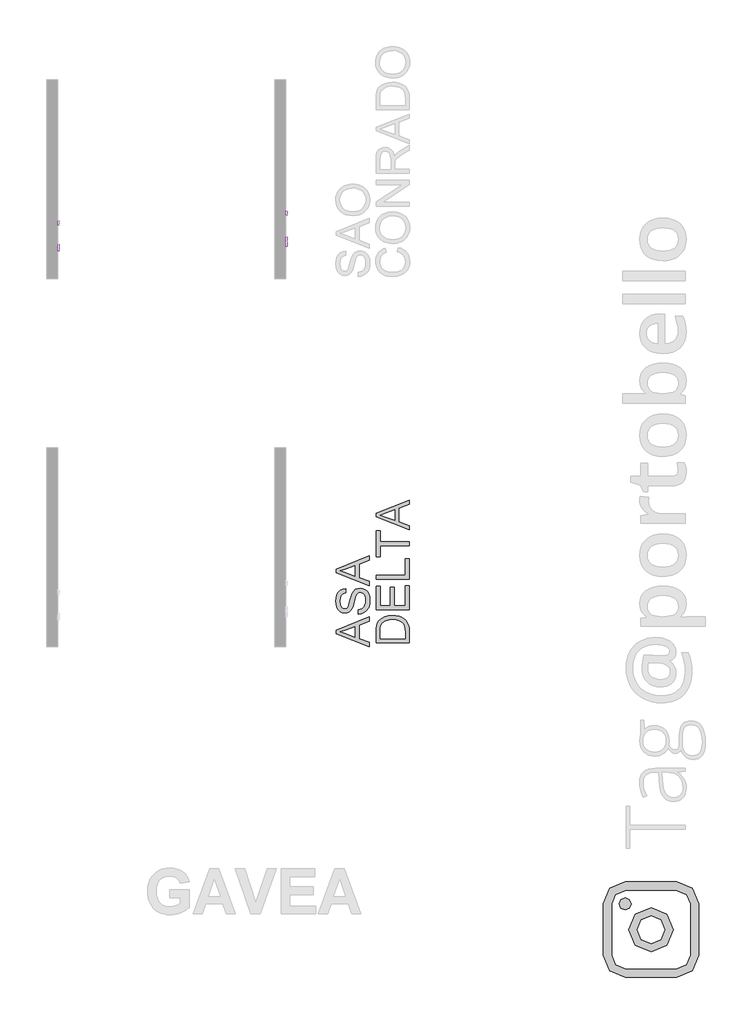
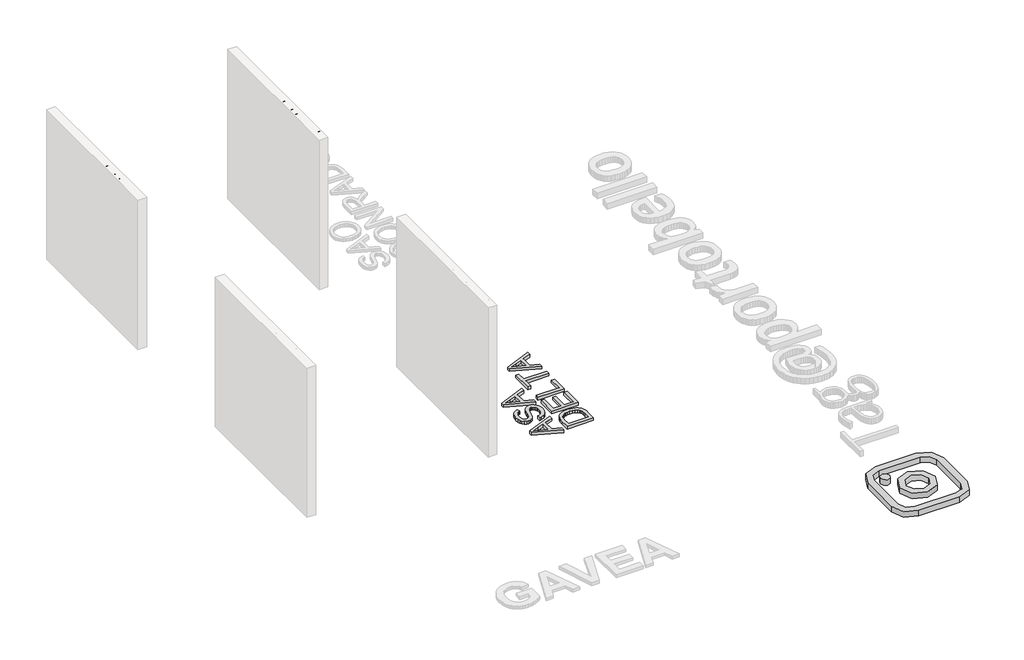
# One storey, part 3 of 7: 6 proxies.
"""IFC4 building model written with IfcOpenShell, lengths in millimetres."""

from ifc_helpers import new_model, si_unit, frame, origin, origin_with_axes, place, context, project, spatial, polyline, outline, extrude, transform, mapped, element, save
from components import generic_models_d67f6705

model = new_model("IFC4")

# Units and contexts
model_context = context("Model", 3, world=origin())
ifc_project = project(units=[si_unit("LENGTHUNIT", "METRE", prefix="MILLI")], contexts=[model_context])

# Site, building, storey
site = spatial("IfcSite", under=ifc_project)
building = spatial("IfcBuilding", under=site)
storey = spatial("IfcBuildingStorey", under=building, Name="PORTOBELLO - SHOWROOM", Elevation=0.0)

# Proxies
placement = place(None, origin())
generic_models_shape = generic_models_d67f6705(model_context)
element("IfcBuildingElementProxy", 1, Name="Blks_Instagram1 : Único 2", ObjectType="Blks_Instagram1 : Único 2", at=placement, inside=storey, context=model_context, shape_type="MappedRepresentation", body=[
    mapped(generic_models_shape, transform((52075.426332, -13021.2406298, 0.0), x_axis=(-1.0, 0.0, 0.0), y_axis=(0.0, -1.0, 0.0), z_axis=(0.0, 0.0, 1.0))),
])
element("IfcBuildingElementProxy", 2, Name="10mm Arial", ObjectType="10mm Arial", at=placement, inside=storey, context=model_context, shape_type="SweptSolid", body=[
    extrude(outline(polyline([(-3966.9105149, 2583.9986473), (-3963.5627888, 2606.2125885), (-3953.5196103, 2623.0186643), (-3938.1850625, 2633.5952717), (-3918.9632282, 2637.1208075), (-3905.7869214, 2635.4653385), (-3893.971778, 2630.4989315), (-3884.1615915, 2622.5710745), (-3877.0001553, 2612.0312554), (-3872.6223596, 2599.3883775), (-3871.1630943, 2585.1513443), (-3872.6990016, 2570.7242387), (-3877.3067236, 2557.9035512), (-3884.7318086, 2547.3453379), (-3894.7198047, 2539.7056551), (-3906.4337806, 2535.070342), (-3919.0368046, 2533.5252376), (-3932.4154465, 2535.2328232), (-3944.298035, 2540.35558), (-3954.083696, 2548.4305898), (-3961.1715558, 2558.9949344), (-3966.9105149, 2583.9986473)]), holes=[polyline([(-3954.3534762, 2583.87602), (-3951.8426815, 2568.1613275), (-3944.3102977, 2556.1867685), (-3932.9887293, 2548.6083994), (-3919.110381, 2546.0822764), (-3905.0296977, 2548.6329249), (-3893.6897352, 2556.2848704), (-3886.2125336, 2568.6273113), (-3883.7201331, 2585.2494461), (-3887.9875642, 2605.9734652), (-3900.4587639, 2619.6954636), (-3918.8896518, 2624.5637687), (-3932.3970524, 2622.218521), (-3943.881102, 2615.1827778), (-3951.7353826, 2602.6655929), (-3954.3534762, 2583.87602)])]), frame((47110.9355471, 0.0, 0.0), z_axis=(1.0, 0.0, 0.0), x_axis=(0.0, 1.0, 0.0)), (0.0, 0.0, 1.0), 20.0),
    extrude(outline(polyline([(-3811.5171602, 2535.0948675), (-3811.5171602, 2596.3104315), (-3822.5045691, 2596.3104315), (-3822.5045691, 2608.8674702), (-3811.5171602, 2608.8674702), (-3811.5171602, 2616.2986865), (-3810.192785, 2626.7710607), (-3803.7671128, 2634.2513279), (-3791.1119722, 2637.1208075), (-3779.6585794, 2635.7473813), (-3781.4979894, 2623.9751575), (-3788.7330019, 2624.5637687), (-3796.6424648, 2622.479104), (-3798.9601214, 2614.7045312), (-3798.9601214, 2608.8674702), (-3784.8334528, 2608.8674702), (-3784.8334528, 2596.3104315), (-3798.9601214, 2596.3104315), (-3798.9601214, 2535.0948675), (-3811.5171602, 2535.0948675)])), frame((47110.9355471, 0.0, 0.0), z_axis=(1.0, 0.0, 0.0), x_axis=(0.0, 1.0, 0.0)), (0.0, 0.0, 1.0), 20.0),
    extrude(outline(polyline([(-3852.3275362, 2535.0948675), (-3852.3275362, 2596.3104315), (-3863.3149451, 2596.3104315), (-3863.3149451, 2608.8674702), (-3852.3275362, 2608.8674702), (-3852.3275362, 2616.2986865), (-3851.003161, 2626.7710607), (-3844.5774888, 2634.2513279), (-3831.9223482, 2637.1208075), (-3820.4689554, 2635.7473813), (-3822.3083654, 2623.9751575), (-3829.5433779, 2624.5637687), (-3837.4528408, 2622.479104), (-3839.7704974, 2614.7045312), (-3839.7704974, 2608.8674702), (-3825.6438288, 2608.8674702), (-3825.6438288, 2596.3104315), (-3839.7704974, 2596.3104315), (-3839.7704974, 2535.0948675), (-3852.3275362, 2535.0948675)])), frame((47110.9355471, 0.0, 0.0), z_axis=(1.0, 0.0, 0.0), x_axis=(0.0, 1.0, 0.0)), (0.0, 0.0, 1.0), 20.0),
    extrude(outline(polyline([(-3715.058501, 2535.0948675), (-3742.4534469, 2635.5511776), (-3729.5040007, 2635.5511776), (-3713.6114985, 2569.5286222), (-3708.7064052, 2549.1479597), (-3703.4579555, 2567.1741774), (-3683.5432768, 2635.5511776), (-3664.8793969, 2635.5511776), (-3650.4093717, 2585.9852101), (-3639.642692, 2549.1479597), (-3634.8847515, 2568.940011), (-3618.8450966, 2635.5511776), (-3605.8956503, 2635.5511776), (-3633.3151217, 2535.0948675), (-3646.7305518, 2535.0948675), (-3670.8145597, 2612.5953411), (-3674.1745486, 2623.4110718), (-3677.9514705, 2610.3880491), (-3699.9017628, 2535.0948675), (-3715.058501, 2535.0948675)])), frame((47110.9355471, 0.0, 0.0), z_axis=(1.0, 0.0, 0.0), x_axis=(0.0, 1.0, 0.0)), (0.0, 0.0, 1.0), 20.0),
    extrude(outline(polyline([(-3594.9082414, 2535.0948675), (-3594.9082414, 2635.5511776), (-3582.3512026, 2635.5511776), (-3582.3512026, 2598.6158253), (-3572.5594102, 2607.4817814), (-3560.4990121, 2610.4371001), (-3546.396869, 2607.2120012), (-3537.8374812, 2598.2969942), (-3535.2623073, 2581.7913554), (-3535.2623073, 2535.0948675), (-3547.819346, 2535.0948675), (-3547.819346, 2580.4915057), (-3551.816997, 2593.7352575), (-3563.1477625, 2597.8800613), (-3573.4361956, 2595.0841581), (-3580.3033262, 2587.505789), (-3582.3512026, 2574.2865627), (-3582.3512026, 2535.0948675), (-3594.9082414, 2535.0948675)])), frame((47110.9355471, 0.0, 0.0), z_axis=(1.0, 0.0, 0.0), x_axis=(0.0, 1.0, 0.0)), (0.0, 0.0, 1.0), 20.0),
    extrude(outline(polyline([(47130.9355471, -3505.4393402), (47130.9355471, -3517.9963789), (47110.9355471, -3517.9963789), (47110.9355471, -3505.4393402), (47130.9355471, -3505.4393402)])), frame((0.0, 0.0, 2622.9941388), z_axis=(0.0, 0.0, 1.0), x_axis=(1.0, 0.0, 0.0)), (0.0, 0.0, 1.0), 12.5570388),
    extrude(outline(polyline([(47130.9355471, -3505.4393402), (47130.9355471, -3517.9963789), (47110.9355471, -3517.9963789), (47110.9355471, -3505.4393402), (47130.9355471, -3505.4393402)])), frame((0.0, 0.0, 2535.0948675), z_axis=(0.0, 0.0, 1.0), x_axis=(1.0, 0.0, 0.0)), (0.0, 0.0, 1.0), 73.7726028),
    extrude(outline(polyline([(-3459.9200746, 2545.5672416), (-3458.3504448, 2534.7269855), (-3467.7436984, 2533.5252376), (-3478.2651235, 2535.6099023), (-3483.5135733, 2541.0790812), (-3485.0341522, 2555.3283772), (-3485.0341522, 2596.3104315), (-3494.4519313, 2596.3104315), (-3494.4519313, 2608.8674702), (-3485.0341522, 2608.8674702), (-3485.0341522, 2626.7955861), (-3472.4771134, 2634.1777515), (-3472.4771134, 2608.8674702), (-3459.9200746, 2608.8674702), (-3459.9200746, 2596.3104315), (-3472.4771134, 2596.3104315), (-3472.4771134, 2555.6962592), (-3471.8149258, 2549.2215361), (-3469.6689475, 2546.928405), (-3465.3892536, 2546.0822764), (-3459.9200746, 2545.5672416)])), frame((47110.9355471, 0.0, 0.0), z_axis=(1.0, 0.0, 0.0), x_axis=(0.0, 1.0, 0.0)), (0.0, 0.0, 1.0), 20.0),
    extrude(outline(polyline([(-3395.7124038, 2557.0696853), (-3383.4006196, 2555.5000555), (-3387.8366634, 2546.2232978), (-3394.9153261, 2539.2887222), (-3404.4771923, 2534.9661088), (-3416.3628464, 2533.5252376), (-3431.0965203, 2536.0115068), (-3442.4334171, 2543.4703142), (-3449.6622983, 2555.417282), (-3452.0719254, 2571.3680322), (-3449.6377729, 2587.8552769), (-3442.3353153, 2600.1854551), (-3431.1517026, 2607.8741888), (-3417.0740849, 2610.4371001), (-3403.43486, 2607.8803202), (-3392.5363559, 2600.2099806), (-3385.3902481, 2587.9043279), (-3383.0082122, 2571.4416086), (-3383.0817886, 2568.0570942), (-3439.5148866, 2568.0570942), (-3437.3413172, 2558.6577092), (-3432.2921368, 2551.7476591), (-3425.0050076, 2547.4986221), (-3416.1175918, 2546.0822764), (-3403.8058076, 2548.7065013), (-3395.7124038, 2557.0696853)]), holes=[polyline([(-3439.5148866, 2580.614133), (-3395.565251, 2580.614133), (-3400.5929716, 2591.9939494), (-3407.9138233, 2596.4085333), (-3417.1231359, 2597.8800613), (-3432.5864424, 2593.1834345), (-3437.4516818, 2587.6927957), (-3439.5148866, 2580.614133)])]), frame((47110.9355471, 0.0, 0.0), z_axis=(1.0, 0.0, 0.0), x_axis=(0.0, 1.0, 0.0)), (0.0, 0.0, 1.0), 20.0),
])
element("IfcBuildingElementProxy", 3, Name="10mm Arial", ObjectType="10mm Arial", at=placement, inside=storey, context=model_context, shape_type="SweptSolid", body=[
    extrude(outline(polyline([(-3907.1713427, 2570.7659888), (-3894.6143039, 2567.5286272), (-3900.4084454, 2552.8961209), (-3909.501262, 2542.2060832), (-3921.4451641, 2535.6669807), (-3935.7925619, 2533.4872799), (-3950.3576232, 2535.1366175), (-3961.9244463, 2540.0846304), (-3970.7904024, 2548.1596402), (-3977.2528628, 2559.1899687), (-3982.5135753, 2586.0453543), (-3981.0267189, 2600.6931891), (-3976.5661497, 2613.3421983), (-3969.3648597, 2623.5907776), (-3959.6558407, 2631.0373223), (-3948.1411342, 2635.5714679), (-3935.5227818, 2637.0828498), (-3921.7547981, 2635.1269438), (-3910.3719161, 2629.259226), (-3901.7297549, 2619.8414469), (-3896.1839338, 2607.2353572), (-3908.7409725, 2604.2432503), (-3919.0416684, 2619.6820314), (-3936.0132911, 2624.525811), (-3955.6581897, 2619.1547339), (-3966.7559632, 2604.7337597), (-3969.9565365, 2586.0698798), (-3966.167352, 2564.4384185), (-3954.3706027, 2550.6183182), (-3937.0433607, 2546.0443187), (-3926.5617895, 2547.6016858), (-3917.8276578, 2552.2737871), (-3911.2333731, 2560.0115718), (-3907.1713427, 2570.7659888)])), frame((44010.9355471, 0.0, 0.0), z_axis=(1.0, 0.0, 0.0), x_axis=(0.0, 1.0, 0.0)), (0.0, 0.0, 1.0), 20.0),
    extrude(outline(polyline([(-3827.2673733, 2557.0317276), (-3814.9555892, 2555.4620978), (-3819.391633, 2546.1853401), (-3826.4702957, 2539.2507645), (-3836.0321619, 2534.9281511), (-3847.917816, 2533.4872799), (-3862.6514899, 2535.9735491), (-3873.9883867, 2543.4323565), (-3881.2172679, 2555.3793243), (-3883.626895, 2571.3300745), (-3881.1927425, 2587.8173192), (-3873.8902849, 2600.1474975), (-3862.7066722, 2607.8362311), (-3848.6290545, 2610.3991424), (-3834.9898296, 2607.8423625), (-3824.0913255, 2600.1720229), (-3816.9452177, 2587.8663702), (-3814.5631818, 2571.4036509), (-3814.6367582, 2568.0191365), (-3871.0698562, 2568.0191365), (-3868.8962868, 2558.6197516), (-3863.8471064, 2551.7097014), (-3856.5599772, 2547.4606644), (-3847.6725613, 2546.0443187), (-3835.3607772, 2548.6685436), (-3827.2673733, 2557.0317276)]), holes=[polyline([(-3871.0698562, 2580.5761753), (-3827.1202205, 2580.5761753), (-3832.1479411, 2591.9559917), (-3839.4687929, 2596.3705756), (-3848.6781055, 2597.8421036), (-3864.141412, 2593.1454768), (-3869.0066514, 2587.654838), (-3871.0698562, 2580.5761753)])]), frame((44010.9355471, 0.0, 0.0), z_axis=(1.0, 0.0, 0.0), x_axis=(0.0, 1.0, 0.0)), (0.0, 0.0, 1.0), 20.0),
    extrude(outline(polyline([(-3802.006143, 2535.0569098), (-3802.006143, 2608.8295125), (-3789.4491042, 2608.8295125), (-3789.4491042, 2596.6894067), (-3780.8161401, 2606.6344833), (-3768.5288814, 2610.3991424), (-3755.9473172, 2606.5609069), (-3749.0311357, 2595.8064899), (-3739.2332119, 2606.7509793), (-3726.8601141, 2610.3991424), (-3717.4208753, 2608.8816292), (-3710.4403144, 2604.3290895), (-3706.126898, 2596.618896), (-3704.6890926, 2585.6284214), (-3704.6890926, 2535.0569098), (-3717.2461313, 2535.0569098), (-3717.2461313, 2580.2328188), (-3718.411091, 2590.7174556), (-3722.6294712, 2595.8800663), (-3729.8031701, 2597.8421036), (-3742.1517424, 2592.814383), (-3745.8397594, 2586.2722149), (-3747.0690984, 2576.7011516), (-3747.0690984, 2535.0569098), (-3759.6261372, 2535.0569098), (-3759.6261372, 2581.6307704), (-3762.5324049, 2593.7954017), (-3772.0605486, 2597.8421036), (-3781.3557003, 2595.1443023), (-3787.5361179, 2587.2471022), (-3789.4491042, 2572.2620422), (-3789.4491042, 2535.0569098), (-3802.006143, 2535.0569098)])), frame((44010.9355471, 0.0, 0.0), z_axis=(1.0, 0.0, 0.0), x_axis=(0.0, 1.0, 0.0)), (0.0, 0.0, 1.0), 20.0),
    extrude(outline(polyline([(-3634.2029023, 2557.0317276), (-3621.8911182, 2555.4620978), (-3626.3271619, 2546.1853401), (-3633.4058246, 2539.2507645), (-3642.9676908, 2534.9281511), (-3654.8533449, 2533.4872799), (-3669.5870188, 2535.9735491), (-3680.9239157, 2543.4323565), (-3688.1527969, 2555.3793243), (-3690.5624239, 2571.3300745), (-3688.1282714, 2587.8173192), (-3680.8258138, 2600.1474975), (-3669.6422011, 2607.8362311), (-3655.5645835, 2610.3991424), (-3641.9253585, 2607.8423625), (-3631.0268544, 2600.1720229), (-3623.8807466, 2587.8663702), (-3621.4987107, 2571.4036509), (-3621.5722871, 2568.0191365), (-3678.0053852, 2568.0191365), (-3675.8318157, 2558.6197516), (-3670.7826353, 2551.7097014), (-3663.4955061, 2547.4606644), (-3654.6080903, 2546.0443187), (-3642.2963062, 2548.6685436), (-3634.2029023, 2557.0317276)]), holes=[polyline([(-3678.0053852, 2580.5761753), (-3634.0557495, 2580.5761753), (-3639.0834701, 2591.9559917), (-3646.4043218, 2596.3705756), (-3655.6136344, 2597.8421036), (-3671.0769409, 2593.1454768), (-3675.9421803, 2587.654838), (-3678.0053852, 2580.5761753)])]), frame((44010.9355471, 0.0, 0.0), z_axis=(1.0, 0.0, 0.0), x_axis=(0.0, 1.0, 0.0)), (0.0, 0.0, 1.0), 20.0),
    extrude(outline(polyline([(-3608.9416719, 2535.0569098), (-3608.9416719, 2608.8295125), (-3596.3846332, 2608.8295125), (-3596.3846332, 2598.5288167), (-3586.7829131, 2607.431561), (-3573.6740513, 2610.3991424), (-3561.8159884, 2608.0079094), (-3553.7225845, 2601.72939), (-3549.9579254, 2592.495552), (-3549.2957378, 2580.3554461), (-3549.2957378, 2535.0569098), (-3561.8527766, 2535.0569098), (-3561.8527766, 2578.6631889), (-3563.2997791, 2589.7732252), (-3568.4133388, 2595.6470744), (-3577.0340402, 2597.8421036), (-3590.6579368, 2592.9124849), (-3594.9529591, 2585.7694428), (-3596.3846332, 2574.1995541), (-3596.3846332, 2535.0569098), (-3608.9416719, 2535.0569098)])), frame((44010.9355471, 0.0, 0.0), z_axis=(1.0, 0.0, 0.0), x_axis=(0.0, 1.0, 0.0)), (0.0, 0.0, 1.0), 20.0),
    extrude(outline(polyline([(-3505.3461021, 2545.5292839), (-3503.7764723, 2534.6890278), (-3513.1697259, 2533.4872799), (-3523.6911509, 2535.5719446), (-3528.9396007, 2541.0411236), (-3530.4601796, 2555.2904195), (-3530.4601796, 2596.2724738), (-3539.8779587, 2596.2724738), (-3539.8779587, 2608.8295125), (-3530.4601796, 2608.8295125), (-3530.4601796, 2626.7576284), (-3517.9031409, 2634.1397938), (-3517.9031409, 2608.8295125), (-3505.3461021, 2608.8295125), (-3505.3461021, 2596.2724738), (-3517.9031409, 2596.2724738), (-3517.9031409, 2555.6583015), (-3517.2409533, 2549.1835784), (-3515.094975, 2546.8904473), (-3510.8152811, 2546.0443187), (-3505.3461021, 2545.5292839)])), frame((44010.9355471, 0.0, 0.0), z_axis=(1.0, 0.0, 0.0), x_axis=(0.0, 1.0, 0.0)), (0.0, 0.0, 1.0), 20.0),
])
element("IfcBuildingElementProxy", 4, Name="10mm Arial Narrow", ObjectType="10mm Arial Narrow", at=placement, inside=storey, context=model_context, shape_type="SweptSolid", body=[
    extrude(outline(polyline([(-3315.0665663, 2535.0948675), (-3315.0665663, 2635.8134712), (-3283.7696816, 2635.8134712), (-3267.4739801, 2633.9351505), (-3256.000994, 2624.4547073), (-3251.7113155, 2607.4355985), (-3253.4976239, 2595.3597729), (-3258.8565491, 2585.7333792), (-3268.6003379, 2579.4321208), (-3283.5412372, 2577.3317013), (-3305.3196046, 2577.3317013), (-3305.3196046, 2535.0948675), (-3315.0665663, 2535.0948675)]), holes=[polyline([(-3305.3196046, 2588.7031566), (-3282.3482497, 2588.7031566), (-3266.4840543, 2593.2339708), (-3261.4582772, 2606.9025615), (-3263.9330917, 2617.0683379), (-3269.9107205, 2622.8682878), (-3282.5766941, 2624.4420159), (-3305.3196046, 2624.4420159), (-3305.3196046, 2588.7031566)])]), frame((47110.9355471, 0.0, 0.0), z_axis=(1.0, 0.0, 0.0), x_axis=(0.0, 1.0, 0.0)), (0.0, 0.0, 1.0), 20.0),
    extrude(outline(polyline([(-3243.5888475, 2571.6459737), (-3241.6343786, 2588.2367492), (-3235.770972, 2600.188834), (-3226.9124053, 2607.4133886), (-3215.9724561, 2609.8215735), (-3205.1594205, 2607.4133886), (-3196.2754711, 2600.188834), (-3190.3359164, 2588.4271196), (-3188.3560648, 2572.407455), (-3190.3010151, 2555.2455685), (-3196.1358662, 2543.1031133), (-3204.9849144, 2535.8785587), (-3215.9724561, 2533.4703738), (-3226.8330843, 2535.8849044), (-3235.7075152, 2543.128496), (-3241.6185144, 2555.0869265), (-3243.5888475, 2571.6459737)]), holes=[polyline([(-3233.8418858, 2571.6713564), (-3232.537849, 2559.119605), (-3228.6257384, 2550.2483469), (-3222.7845416, 2544.9750884), (-3215.6932463, 2543.2173355), (-3208.9731731, 2544.9909525), (-3203.2810998, 2550.3118037), (-3199.3975448, 2559.1989259), (-3198.1030264, 2571.6713564), (-3199.4070633, 2584.1850337), (-3203.3191739, 2593.0436004), (-3209.1603706, 2598.316859), (-3216.251666, 2600.0746118), (-3223.0193317, 2598.3073404), (-3228.7018865, 2593.0055263), (-3232.556886, 2584.1374411), (-3233.8418858, 2571.6713564)])]), frame((47110.9355471, 0.0, 0.0), z_axis=(1.0, 0.0, 0.0), x_axis=(0.0, 1.0, 0.0)), (0.0, 0.0, 1.0), 20.0),
    extrude(outline(polyline([(-3116.878346, 2543.2173355), (-3115.2538524, 2533.4703738), (-3122.614839, 2533.4703738), (-3130.8896034, 2535.5898304), (-3135.2046645, 2541.3897802), (-3136.3722693, 2556.0356054), (-3136.3722693, 2598.4501182), (-3144.4947373, 2598.4501182), (-3144.4947373, 2601.6991054), (-3146.1192309, 2596.8256246), (-3153.6832793, 2598.4501182), (-3159.762439, 2596.1276), (-3163.6333027, 2589.6423169), (-3165.6131542, 2574.2350103), (-3165.6131542, 2535.0948675), (-3175.3601159, 2535.0948675), (-3175.3601159, 2608.1970799), (-3165.6131542, 2608.1970799), (-3165.6131542, 2598.5008836), (-3159.3690069, 2607.5878948), (-3152.9725634, 2609.8215735), (-3144.4947373, 2608.1970799), (-3136.3722693, 2608.1970799), (-3136.3722693, 2624.4420159), (-3126.6253076, 2632.564484), (-3126.6253076, 2608.1970799), (-3116.878346, 2608.1970799), (-3116.878346, 2598.4501182), (-3126.6253076, 2598.4501182), (-3126.6253076, 2553.8019267), (-3125.7622954, 2545.8063722), (-3121.1426417, 2543.2173355), (-3116.878346, 2543.2173355)])), frame((47110.9355471, 0.0, 0.0), z_axis=(1.0, 0.0, 0.0), x_axis=(0.0, 1.0, 0.0)), (0.0, 0.0, 1.0), 20.0),
    extrude(outline(polyline([(-3110.3803715, 2571.6459737), (-3108.4259027, 2588.2367492), (-3102.5624961, 2600.188834), (-3093.7039293, 2607.4133886), (-3082.7639802, 2609.8215735), (-3071.9509446, 2607.4133886), (-3063.0669952, 2600.188834), (-3057.1274404, 2588.4271196), (-3055.1475888, 2572.407455), (-3057.0925392, 2555.2455685), (-3062.9273903, 2543.1031133), (-3071.7764385, 2535.8785587), (-3082.7639802, 2533.4703738), (-3093.6246084, 2535.8849044), (-3102.4990393, 2543.128496), (-3108.4100385, 2555.0869265), (-3110.3803715, 2571.6459737)]), holes=[polyline([(-3100.6334099, 2571.6713564), (-3099.329373, 2559.119605), (-3095.4172624, 2550.2483469), (-3089.5760657, 2544.9750884), (-3082.4847704, 2543.2173355), (-3075.7646972, 2544.9909525), (-3070.0726239, 2550.3118037), (-3066.1890688, 2559.1989259), (-3064.8945505, 2571.6713564), (-3066.1985874, 2584.1850337), (-3070.1106979, 2593.0436004), (-3075.9518947, 2598.316859), (-3083.04319, 2600.0746118), (-3089.8108558, 2598.3073404), (-3095.4934106, 2593.0055263), (-3099.3484101, 2584.1374411), (-3100.6334099, 2571.6713564)])]), frame((47110.9355471, 0.0, 0.0), z_axis=(1.0, 0.0, 0.0), x_axis=(0.0, 1.0, 0.0)), (0.0, 0.0, 1.0), 20.0),
    extrude(outline(polyline([(-3032.4046783, 2535.0948675), (-3042.15164, 2535.0948675), (-3042.15164, 2635.8134712), (-3032.4046783, 2635.8134712), (-3032.4046783, 2600.4045871), (-3025.0056176, 2607.4863639), (-3015.8043843, 2609.8215735), (-3002.9226576, 2605.6207345), (-2993.6452761, 2592.8913041), (-2990.1678445, 2572.2043933), (-2992.1001035, 2555.7500499), (-2997.8968805, 2543.5473108), (-3006.2700028, 2535.9896081), (-3015.9312978, 2533.4703738), (-3025.2721361, 2536.0847932), (-3032.4046783, 2543.8519033), (-3032.4046783, 2535.0948675)]), holes=[polyline([(-3032.4046783, 2572.2043933), (-3030.3232959, 2554.9568401), (-3024.4345065, 2546.2251869), (-3015.9820632, 2543.2173355), (-3010.0393356, 2545.0068167), (-3004.8009783, 2550.3752605), (-2999.9148061, 2571.7982699), (-3004.6232993, 2593.2339708), (-3009.8680023, 2598.3644515), (-3016.1851249, 2600.0746118), (-3022.1627538, 2598.2851306), (-3027.4550494, 2592.9166868), (-3032.4046783, 2572.2043933)])]), frame((47110.9355471, 0.0, 0.0), z_axis=(1.0, 0.0, 0.0), x_axis=(0.0, 1.0, 0.0)), (0.0, 0.0, 1.0), 20.0),
    extrude(outline(polyline([(-2938.184049, 2557.837778), (-2928.4370873, 2556.2132844), (-2932.1366177, 2546.3267178), (-2937.9556046, 2539.2068669), (-2945.6592579, 2534.9044971), (-2955.0127875, 2533.4703738), (-2966.6063415, 2535.8849044), (-2975.7504637, 2543.128496), (-2981.6900185, 2554.9346302), (-2983.6698701, 2571.0367886), (-2981.6804999, 2587.7037122), (-2975.7123896, 2599.8842415), (-2966.6983538, 2607.3372405), (-2955.5712072, 2609.8215735), (-2944.888258, 2607.4229071), (-2936.1407406, 2600.2269081), (-2930.3058896, 2588.4874035), (-2928.3609392, 2572.4582205), (-2928.4370873, 2569.2092332), (-2973.9229084, 2569.2092332), (-2967.9198969, 2549.7660754), (-2961.9898606, 2544.8545205), (-2954.8858739, 2543.2173355), (-2944.7074061, 2546.8724461), (-2938.184049, 2557.837778)]), holes=[polyline([(-2973.2629579, 2578.9561949), (-2938.184049, 2578.9561949), (-2942.4483447, 2593.2212794), (-2948.2736773, 2598.3612787), (-2955.495059, 2600.0746118), (-2967.7041438, 2594.3635015), (-2973.2629579, 2578.9561949)])]), frame((47110.9355471, 0.0, 0.0), z_axis=(1.0, 0.0, 0.0), x_axis=(0.0, 1.0, 0.0)), (0.0, 0.0, 1.0), 20.0),
    extrude(outline(polyline([(47130.9355471, -2905.6941768), (47130.9355471, -2915.4411385), (47110.9355471, -2915.4411385), (47110.9355471, -2905.6941768), (47130.9355471, -2905.6941768)])), frame((0.0, 0.0, 2535.0948675), z_axis=(0.0, 0.0, 1.0), x_axis=(1.0, 0.0, 0.0)), (0.0, 0.0, 1.0), 100.7186038),
    extrude(outline(polyline([(47130.9355471, -2879.7022791), (47130.9355471, -2889.4492407), (47110.9355471, -2889.4492407), (47110.9355471, -2879.7022791), (47130.9355471, -2879.7022791)])), frame((0.0, 0.0, 2535.0948675), z_axis=(0.0, 0.0, 1.0), x_axis=(1.0, 0.0, 0.0)), (0.0, 0.0, 1.0), 100.7186038),
    extrude(outline(polyline([(-2868.3308238, 2571.6459737), (-2866.3763549, 2588.2367492), (-2860.5129483, 2600.188834), (-2851.6543816, 2607.4133886), (-2840.7144325, 2609.8215735), (-2829.9013969, 2607.4133886), (-2821.0174475, 2600.188834), (-2815.0778927, 2588.4271196), (-2813.0980411, 2572.407455), (-2815.0429915, 2555.2455685), (-2820.8778425, 2543.1031133), (-2829.7268907, 2535.8785587), (-2840.7144325, 2533.4703738), (-2851.5750606, 2535.8849044), (-2860.4494915, 2543.128496), (-2866.3604907, 2555.0869265), (-2868.3308238, 2571.6459737)]), holes=[polyline([(-2858.5838622, 2571.6713564), (-2857.2798253, 2559.119605), (-2853.3677147, 2550.2483469), (-2847.526518, 2544.9750884), (-2840.4352226, 2543.2173355), (-2833.7151495, 2544.9909525), (-2828.0230761, 2550.3118037), (-2824.1395211, 2559.1989259), (-2822.8450028, 2571.6713564), (-2824.1490396, 2584.1850337), (-2828.0611502, 2593.0436004), (-2833.902347, 2598.316859), (-2840.9936423, 2600.0746118), (-2847.7613081, 2598.3073404), (-2853.4438629, 2593.0055263), (-2857.2988623, 2584.1374411), (-2858.5838622, 2571.6713564)])]), frame((47110.9355471, 0.0, 0.0), z_axis=(1.0, 0.0, 0.0), x_axis=(0.0, 1.0, 0.0)), (0.0, 0.0, 1.0), 20.0),
])
element("IfcBuildingElementProxy", 5, Name="10mm Arial Narrow", ObjectType="10mm Arial Narrow", at=placement, inside=storey, context=model_context, shape_type="SweptSolid", body=[
    extrude(outline(polyline([(-3450.6696266, 2535.0569098), (-3450.6696266, 2635.7755135), (-3419.372742, 2635.7755135), (-3403.0770405, 2633.8971928), (-3391.6040543, 2624.4167496), (-3387.3143759, 2607.3976408), (-3389.1006843, 2595.3218153), (-3394.4596095, 2585.6954215), (-3404.2033983, 2579.3941631), (-3419.1442976, 2577.2937436), (-3440.922665, 2577.2937436), (-3440.922665, 2535.0569098), (-3450.6696266, 2535.0569098)]), holes=[polyline([(-3440.922665, 2588.6651989), (-3417.9513101, 2588.6651989), (-3402.0871147, 2593.1960131), (-3397.0613376, 2606.8646038), (-3399.536152, 2617.0303802), (-3405.5137809, 2622.8303301), (-3418.1797545, 2624.4040583), (-3440.922665, 2624.4040583), (-3440.922665, 2588.6651989)])]), frame((44010.9355471, 0.0, 0.0), z_axis=(1.0, 0.0, 0.0), x_axis=(0.0, 1.0, 0.0)), (0.0, 0.0, 1.0), 20.0),
    extrude(outline(polyline([(-3379.1919079, 2571.608016), (-3377.237439, 2588.1987915), (-3371.3740324, 2600.1508763), (-3362.5154657, 2607.3754309), (-3351.5755165, 2609.7836158), (-3340.7624809, 2607.3754309), (-3331.8785315, 2600.1508763), (-3325.9389767, 2588.3891619), (-3323.9591252, 2572.3694974), (-3325.9040755, 2555.2076108), (-3331.7389266, 2543.0651556), (-3340.5879748, 2535.840601), (-3351.5755165, 2533.4324162), (-3362.4361447, 2535.8469467), (-3371.3105756, 2543.0905383), (-3377.2215748, 2555.0489688), (-3379.1919079, 2571.608016)]), holes=[polyline([(-3369.4449462, 2571.6333987), (-3368.1409093, 2559.0816473), (-3364.2287988, 2550.2103892), (-3358.387602, 2544.9371307), (-3351.2963067, 2543.1793778), (-3344.5762335, 2544.9529949), (-3338.8841602, 2550.273846), (-3335.0006052, 2559.1609683), (-3333.7060868, 2571.6333987), (-3335.0101237, 2584.147076), (-3338.9222343, 2593.0056427), (-3344.763431, 2598.2789013), (-3351.8547263, 2600.0366541), (-3358.6223921, 2598.2693828), (-3364.3049469, 2592.9675687), (-3368.1599464, 2584.0994834), (-3369.4449462, 2571.6333987)])]), frame((44010.9355471, 0.0, 0.0), z_axis=(1.0, 0.0, 0.0), x_axis=(0.0, 1.0, 0.0)), (0.0, 0.0, 1.0), 20.0),
    extrude(outline(polyline([(-3252.4814064, 2543.1793778), (-3250.8569128, 2533.4324162), (-3258.2178994, 2533.4324162), (-3266.4926637, 2535.5518727), (-3270.8077249, 2541.3518225), (-3271.9753297, 2555.9976477), (-3271.9753297, 2598.4121605), (-3280.0977977, 2598.4121605), (-3280.0977977, 2601.6611477), (-3281.7222913, 2596.7876669), (-3289.2863397, 2598.4121605), (-3295.3654994, 2596.0896423), (-3299.236363, 2589.6043592), (-3301.2162146, 2574.1970527), (-3301.2162146, 2535.0569098), (-3310.9631763, 2535.0569098), (-3310.9631763, 2608.1591222), (-3301.2162146, 2608.1591222), (-3301.2162146, 2598.4629259), (-3294.9720673, 2607.5499371), (-3288.5756237, 2609.7836158), (-3280.0977977, 2608.1591222), (-3271.9753297, 2608.1591222), (-3271.9753297, 2624.4040583), (-3262.228368, 2632.5265263), (-3262.228368, 2608.1591222), (-3252.4814064, 2608.1591222), (-3252.4814064, 2598.4121605), (-3262.228368, 2598.4121605), (-3262.228368, 2553.763969), (-3261.3653558, 2545.7684145), (-3256.7457021, 2543.1793778), (-3252.4814064, 2543.1793778)])), frame((44010.9355471, 0.0, 0.0), z_axis=(1.0, 0.0, 0.0), x_axis=(0.0, 1.0, 0.0)), (0.0, 0.0, 1.0), 20.0),
    extrude(outline(polyline([(-3245.9834319, 2571.608016), (-3244.0289631, 2588.1987915), (-3238.1655564, 2600.1508763), (-3229.3069897, 2607.3754309), (-3218.3670406, 2609.7836158), (-3207.554005, 2607.3754309), (-3198.6700556, 2600.1508763), (-3192.7305008, 2588.3891619), (-3190.7506492, 2572.3694974), (-3192.6955996, 2555.2076108), (-3198.5304506, 2543.0651556), (-3207.3794988, 2535.840601), (-3218.3670406, 2533.4324162), (-3229.2276687, 2535.8469467), (-3238.1020997, 2543.0905383), (-3244.0130989, 2555.0489688), (-3245.9834319, 2571.608016)]), holes=[polyline([(-3236.2364703, 2571.6333987), (-3234.9324334, 2559.0816473), (-3231.0203228, 2550.2103892), (-3225.1791261, 2544.9371307), (-3218.0878307, 2543.1793778), (-3211.3677576, 2544.9529949), (-3205.6756843, 2550.273846), (-3201.7921292, 2559.1609683), (-3200.4976109, 2571.6333987), (-3201.8016477, 2584.147076), (-3205.7137583, 2593.0056427), (-3211.5549551, 2598.2789013), (-3218.6462504, 2600.0366541), (-3225.4139162, 2598.2693828), (-3231.096471, 2592.9675687), (-3234.9514704, 2584.0994834), (-3236.2364703, 2571.6333987)])]), frame((44010.9355471, 0.0, 0.0), z_axis=(1.0, 0.0, 0.0), x_axis=(0.0, 1.0, 0.0)), (0.0, 0.0, 1.0), 20.0),
    extrude(outline(polyline([(-3168.0077387, 2535.0569098), (-3177.7547004, 2535.0569098), (-3177.7547004, 2635.7755135), (-3168.0077387, 2635.7755135), (-3168.0077387, 2600.3666294), (-3160.608678, 2607.4484062), (-3151.4074446, 2609.7836158), (-3138.525718, 2605.5827768), (-3129.2483365, 2592.8533465), (-3125.7709049, 2572.1664356), (-3127.7031639, 2555.7120922), (-3133.4999409, 2543.5093531), (-3141.8730632, 2535.9516504), (-3151.5343582, 2533.4324162), (-3160.8751964, 2536.0468356), (-3168.0077387, 2543.8139456), (-3168.0077387, 2535.0569098)]), holes=[polyline([(-3168.0077387, 2572.1664356), (-3165.9263563, 2554.9188824), (-3160.0375669, 2546.1872293), (-3151.5851236, 2543.1793778), (-3145.642396, 2544.9688591), (-3140.4040387, 2550.3373028), (-3135.5178665, 2571.7603122), (-3140.2263597, 2593.1960131), (-3145.4710627, 2598.3264939), (-3151.7881853, 2600.0366541), (-3157.7658141, 2598.2471729), (-3163.0581097, 2592.8787292), (-3168.0077387, 2572.1664356)])]), frame((44010.9355471, 0.0, 0.0), z_axis=(1.0, 0.0, 0.0), x_axis=(0.0, 1.0, 0.0)), (0.0, 0.0, 1.0), 20.0),
    extrude(outline(polyline([(-3073.7871094, 2557.7998203), (-3064.0401477, 2556.1753267), (-3067.7396781, 2546.2887601), (-3073.558665, 2539.1689092), (-3081.2623183, 2534.8665394), (-3090.6158479, 2533.4324162), (-3102.2094019, 2535.8469467), (-3111.3535241, 2543.0905383), (-3117.2930788, 2554.8966725), (-3119.2729304, 2570.9988309), (-3117.2835603, 2587.6657546), (-3111.31545, 2599.8462838), (-3102.3014142, 2607.2992828), (-3091.1742675, 2609.7836158), (-3080.4913184, 2607.3849494), (-3071.743801, 2600.1889504), (-3065.9089499, 2588.4494458), (-3063.9639996, 2572.4202628), (-3064.0401477, 2569.1712756), (-3109.5259688, 2569.1712756), (-3103.5229572, 2549.7281177), (-3097.592921, 2544.8165628), (-3090.4889343, 2543.1793778), (-3080.3104665, 2546.8344884), (-3073.7871094, 2557.7998203)]), holes=[polyline([(-3108.8660182, 2578.9182372), (-3073.7871094, 2578.9182372), (-3078.0514051, 2593.1833217), (-3083.8767377, 2598.323321), (-3091.0981194, 2600.0366541), (-3103.3072042, 2594.3255438), (-3108.8660182, 2578.9182372)])]), frame((44010.9355471, 0.0, 0.0), z_axis=(1.0, 0.0, 0.0), x_axis=(0.0, 1.0, 0.0)), (0.0, 0.0, 1.0), 20.0),
    extrude(outline(polyline([(44030.9355471, -3041.2972372), (44030.9355471, -3051.0441989), (44010.9355471, -3051.0441989), (44010.9355471, -3041.2972372), (44030.9355471, -3041.2972372)])), frame((0.0, 0.0, 2535.0569098), z_axis=(0.0, 0.0, 1.0), x_axis=(1.0, 0.0, 0.0)), (0.0, 0.0, 1.0), 100.7186038),
    extrude(outline(polyline([(44030.9355471, -3015.3053395), (44030.9355471, -3025.0523011), (44010.9355471, -3025.0523011), (44010.9355471, -3015.3053395), (44030.9355471, -3015.3053395)])), frame((0.0, 0.0, 2535.0569098), z_axis=(0.0, 0.0, 1.0), x_axis=(1.0, 0.0, 0.0)), (0.0, 0.0, 1.0), 100.7186038),
    extrude(outline(polyline([(-3003.9338842, 2571.608016), (-3001.9794153, 2588.1987915), (-2996.1160087, 2600.1508763), (-2987.257442, 2607.3754309), (-2976.3174928, 2609.7836158), (-2965.5044573, 2607.3754309), (-2956.6205078, 2600.1508763), (-2950.6809531, 2588.3891619), (-2948.7011015, 2572.3694974), (-2950.6460519, 2555.2076108), (-2956.4809029, 2543.0651556), (-2965.3299511, 2535.840601), (-2976.3174928, 2533.4324162), (-2987.178121, 2535.8469467), (-2996.0525519, 2543.0905383), (-3001.9635511, 2555.0489688), (-3003.9338842, 2571.608016)]), holes=[polyline([(-2994.1869225, 2571.6333987), (-2992.8828857, 2559.0816473), (-2988.9707751, 2550.2103892), (-2983.1295784, 2544.9371307), (-2976.038283, 2543.1793778), (-2969.3182098, 2544.9529949), (-2963.6261365, 2550.273846), (-2959.7425815, 2559.1609683), (-2958.4480631, 2571.6333987), (-2959.7521, 2584.147076), (-2963.6642106, 2593.0056427), (-2969.5054073, 2598.2789013), (-2976.5967027, 2600.0366541), (-2983.3643684, 2598.2693828), (-2989.0469232, 2592.9675687), (-2992.9019227, 2584.0994834), (-2994.1869225, 2571.6333987)])]), frame((44010.9355471, 0.0, 0.0), z_axis=(1.0, 0.0, 0.0), x_axis=(0.0, 1.0, 0.0)), (0.0, 0.0, 1.0), 20.0),
])
element("IfcBuildingElementProxy", 6, Name="450mm Arial", ObjectType="450mm Arial", at=placement, inside=storey, context=model_context, shape_type="SweptSolid", body=[
    extrude(outline(polyline([(48248.3393572, -9178.210293), (47798.6832144, -8998.7210856), (47798.6832144, -8950.857297), (48248.3393572, -8771.3680896), (48248.3393572, -8830.7587081), (48107.8218126, -8882.2452147), (48107.8218126, -9067.4429473), (48248.3393572, -9118.8196746), (48248.3393572, -9178.210293)]), holes=[polyline([(48051.6147947, -9046.8044329), (48051.6147947, -8902.7739497), (47941.0670077, -8943.2825231), (47854.8902322, -8974.7891913), (47931.4064265, -9002.7829209), (48051.6147947, -9046.8044329)])]), origin_with_axes(), (0.0, 0.0, 1.0), 50.0),
    extrude(outline(polyline([(48093.7700581, -8732.3964268), (48093.7700581, -8676.189409), (48124.9611107, -8669.7398732), (48150.0319656, -8658.0758192), (48169.9294695, -8639.879895), (48185.6004691, -8613.8347485), (48195.7687797, -8581.9987423), (48199.1582166, -8546.4302389), (48196.5921247, -8515.1156845), (48188.8938491, -8487.6982964), (48176.7083432, -8465.4817041), (48160.6805608, -8449.7695373), (48142.2788003, -8440.4245716), (48122.9713604, -8437.3095831), (48104.1579274, -8439.6423939), (48087.8968639, -8446.6408263), (48074.0235008, -8460.8572498), (48062.3731692, -8484.8440337), (48040.9113099, -8566.6845256), (48026.7086088, -8620.407786), (48013.1920286, -8654.7824393), (47994.2825387, -8682.7624465), (47971.3661032, -8702.5913383), (47944.9367291, -8714.4063388), (47915.4884234, -8718.3446724), (47882.5683463, -8713.4732145), (47851.8713006, -8698.858841), (47825.853599, -8674.8857794), (47806.9715539, -8641.9382575), (47795.4858913, -8602.3902532), (47791.6573372, -8558.6157447), (47795.6642828, -8511.1910734), (47807.6851196, -8469.694486), (47827.4728441, -8435.6080035), (47854.7804529, -8410.4136468), (47887.9063663, -8394.4681989), (47925.1490046, -8388.1284425), (47925.1490046, -8444.3354603), (47907.2138062, -8448.0954024), (47891.6114187, -8454.6547175), (47878.341842, -8464.0134056), (47867.4050761, -8476.1714665), (47858.8560106, -8491.3553204), (47852.7495353, -8509.7913869), (47847.864355, -8556.420158), (47852.6946456, -8604.1467225), (47858.7325088, -8622.3906752), (47867.1855174, -8636.8884082), (47888.5101526, -8655.8253429), (47900.6750748, -8660.5595766), (47913.8417334, -8662.1376545), (47935.4408169, -8657.6641467), (47952.8133962, -8644.2436234), (47968.3471716, -8612.5173966), (47984.210285, -8552.4681021), (47999.2774983, -8490.4976693), (48012.4235733, -8453.0080275), (48032.8150842, -8420.9661851), (48057.981996, -8398.6123687), (48087.6498604, -8385.4800161), (48121.544229, -8381.1025653), (48156.1933306, -8386.1386921), (48188.7840697, -8401.2470726), (48216.832689, -8425.8101981), (48237.855431, -8459.2105598), (48250.9877836, -8499.3760728), (48255.3652344, -8544.2346522), (48250.6447232, -8599.3027095), (48236.4831894, -8644.6278511), (48225.8483166, -8663.7671915), (48212.8257434, -8680.7315288), (48197.4154697, -8695.5208632), (48179.6174955, -8708.1351945), (48139.1638118, -8725.7273324), (48093.7700581, -8732.3964268)])), origin_with_axes(), (0.0, 0.0, 1.0), 50.0),
    extrude(outline(polyline([(48248.3393572, -8349.1567797), (47798.6832144, -8169.6675723), (47798.6832144, -8121.8037837), (48248.3393572, -7942.3145763), (48248.3393572, -8001.7051948), (48107.8218126, -8053.1917013), (48107.8218126, -8238.389434), (48248.3393572, -8289.7661612), (48248.3393572, -8349.1567797)]), holes=[polyline([(48051.6147947, -8217.7509196), (48051.6147947, -8073.7204364), (47941.0670077, -8114.2290098), (47854.8902322, -8145.735678), (47931.4064265, -8173.7294076), (48051.6147947, -8217.7509196)])]), origin_with_axes(), (0.0, 0.0, 1.0), 50.0),
    extrude(outline(polyline([(48788.7714404, -9125.8455518), (48339.1152976, -9125.8455518), (48339.1152976, -8970.727356), (48340.7345427, -8924.3730332), (48345.5922781, -8890.4786645), (48358.0796771, -8854.6357127), (48377.7576223, -8824.3915068), (48412.0087738, -8793.2965111), (48454.6031546, -8771.1485309), (48504.7174195, -8757.8926766), (48561.5282237, -8753.4740585), (48609.7899624, -8756.4655453), (48652.2608414, -8765.4400057), (48688.4194088, -8779.1075325), (48717.7442127, -8796.1782186), (48740.8939293, -8815.828719), (48758.5272345, -8837.2356886), (48771.6046974, -8861.8125365), (48781.0868872, -8890.9726715), (48786.8503021, -8924.7709833), (48788.7714404, -8963.2623615), (48788.7714404, -9125.8455518)]), holes=[polyline([(48732.5644225, -9069.6385339), (48732.5644225, -8970.1784594), (48730.5335049, -8929.0386548), (48724.440752, -8897.8338798), (48714.6429466, -8874.2862131), (48701.4968716, -8856.1177337), (48677.1670272, -8836.5907351), (48645.6740815, -8821.9214719), (48606.8808101, -8812.7411752), (48560.649989, -8809.6810764), (48528.0180827, -8811.1802504), (48499.3931219, -8815.6777724), (48474.7751068, -8823.1736424), (48454.1640372, -8833.6678604), (48423.0964863, -8860.2481811), (48412.1734428, -8875.4834939), (48404.3242206, -8892.0155752), (48397.5727917, -8924.3455884), (48395.3223154, -8971.71537), (48395.3223154, -9069.6385339), (48732.5644225, -9069.6385339)])]), origin_with_axes(), (0.0, 0.0, 1.0), 50.0),
    extrude(outline(polyline([(48788.7714404, -8676.189409), (48339.1152976, -8676.189409), (48339.1152976, -8352.9990563), (48395.3223154, -8352.9990563), (48395.3223154, -8619.9823911), (48528.8139828, -8619.9823911), (48528.8139828, -8367.0508108), (48585.0210007, -8367.0508108), (48585.0210007, -8619.9823911), (48732.5644225, -8619.9823911), (48732.5644225, -8345.9731791), (48788.7714404, -8345.9731791), (48788.7714404, -8676.189409)])), origin_with_axes(), (0.0, 0.0, 1.0), 50.0),
    extrude(outline(polyline([(48788.7714404, -8261.6626523), (48339.1152976, -8261.6626523), (48339.1152976, -8205.4556345), (48732.5644225, -8205.4556345), (48732.5644225, -7980.6275631), (48788.7714404, -7980.6275631), (48788.7714404, -8261.6626523)])), origin_with_axes(), (0.0, 0.0, 1.0), 50.0),
    extrude(outline(polyline([(48788.7714404, -7804.9806323), (48395.3223154, -7804.9806323), (48395.3223154, -7952.5240541), (48339.1152976, -7952.5240541), (48339.1152976, -7601.2301926), (48395.3223154, -7601.2301926), (48395.3223154, -7748.7736144), (48788.7714404, -7748.7736144), (48788.7714404, -7804.9806323)])), origin_with_axes(), (0.0, 0.0, 1.0), 50.0),
    extrude(outline(polyline([(48788.7714404, -7590.3620387), (48339.1152976, -7410.8728313), (48339.1152976, -7363.0090427), (48788.7714404, -7183.5198353), (48788.7714404, -7242.9104537), (48648.2538958, -7294.3969603), (48648.2538958, -7479.594693), (48788.7714404, -7530.9714202), (48788.7714404, -7590.3620387)]), holes=[polyline([(48592.0468779, -7458.9561786), (48592.0468779, -7314.9256954), (48481.4990908, -7355.4342688), (48395.3223154, -7386.940937), (48471.8385096, -7414.9346666), (48592.0468779, -7458.9561786)])]), origin_with_axes(), (0.0, 0.0, 1.0), 50.0),
])

save(model, "model.ifc")
